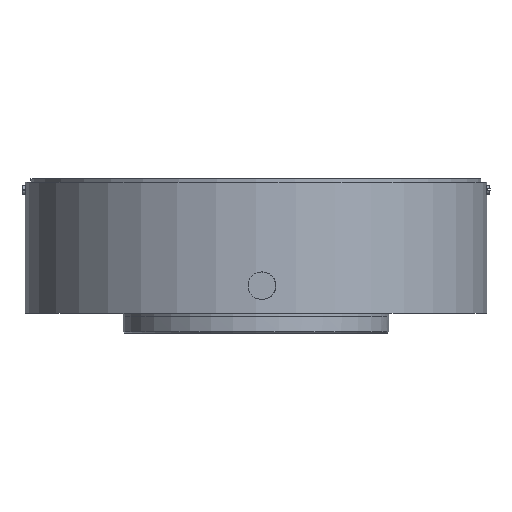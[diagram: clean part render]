
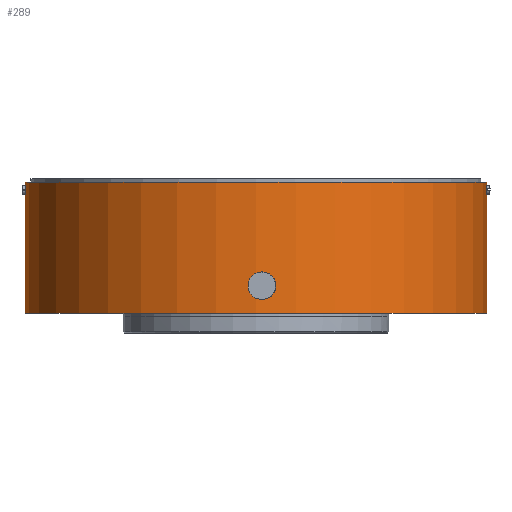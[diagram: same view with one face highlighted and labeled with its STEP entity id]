
A CAD part, front view. The second image highlights one B-rep face of the part: STEP entity #289.
In plain terms, the highlighted cylindrical face has radius 35.2 mm (diameter 70.4 mm), a partial arc.
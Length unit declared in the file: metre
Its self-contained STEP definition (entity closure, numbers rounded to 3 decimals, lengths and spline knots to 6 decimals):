
#289=ADVANCED_FACE('1:588',(#545),#546,.T.);
#545=FACE_OUTER_BOUND('',#819,.T.);
#546=CYLINDRICAL_SURFACE('',#820,0.0352);
#819=EDGE_LOOP('',(#1304,#1305,#1306,#1307));
#820=AXIS2_PLACEMENT_3D('',#1308,#1309,#1310);
#1304=ORIENTED_EDGE('',*,*,#1657,.T.);
#1305=ORIENTED_EDGE('',*,*,#1574,.T.);
#1306=ORIENTED_EDGE('',*,*,#1658,.T.);
#1307=ORIENTED_EDGE('',*,*,#1462,.T.);
#1308=CARTESIAN_POINT('',(0.0,0.0,0.));
#1309=DIRECTION('',(0.0,0.0,1.0));
#1310=DIRECTION('',(1.0,0.,0.0));
#1462=EDGE_CURVE('1:606',#1729,#1730,#1731,.F.);
#1574=EDGE_CURVE('',#1911,#1910,#1913,.T.);
#1657=EDGE_CURVE('',#1730,#1911,#2030,.T.);
#1658=EDGE_CURVE('',#1910,#1729,#2031,.T.);
#1729=VERTEX_POINT('',#2116);
#1730=VERTEX_POINT('',#2117);
#1731=CIRCLE('',#2118,0.0352);
#1910=VERTEX_POINT('',#2336);
#1911=VERTEX_POINT('',#2337);
#1913=CIRCLE('',#2339,0.0352);
#2030=LINE('',#2476,#2477);
#2031=LINE('',#2478,#2479);
#2116=CARTESIAN_POINT('',(-0.0352,0.,0.));
#2117=CARTESIAN_POINT('',(0.0352,0.,0.));
#2118=AXIS2_PLACEMENT_3D('',#2578,#2579,#2580);
#2336=CARTESIAN_POINT('',(-0.0352,0.,0.02));
#2337=CARTESIAN_POINT('',(0.0352,0.,0.02));
#2339=AXIS2_PLACEMENT_3D('',#2749,#2750,#2751);
#2476=CARTESIAN_POINT('',(0.0352,0.,0.));
#2477=VECTOR('',#2874,1.0);
#2478=CARTESIAN_POINT('',(-0.0352,0.,0.));
#2479=VECTOR('',#2875,1.0);
#2578=CARTESIAN_POINT('',(0.0,0.0,0.));
#2579=DIRECTION('',(0.0,-0.0,-1.0));
#2580=DIRECTION('',(1.0,0.,0.0));
#2749=CARTESIAN_POINT('',(0.0,0.0,0.02));
#2750=DIRECTION('',(0.0,-0.0,-1.0));
#2751=DIRECTION('',(1.0,0.,0.0));
#2874=DIRECTION('',(0.0,0.0,1.0));
#2875=DIRECTION('',(-0.0,-0.0,-1.0));
